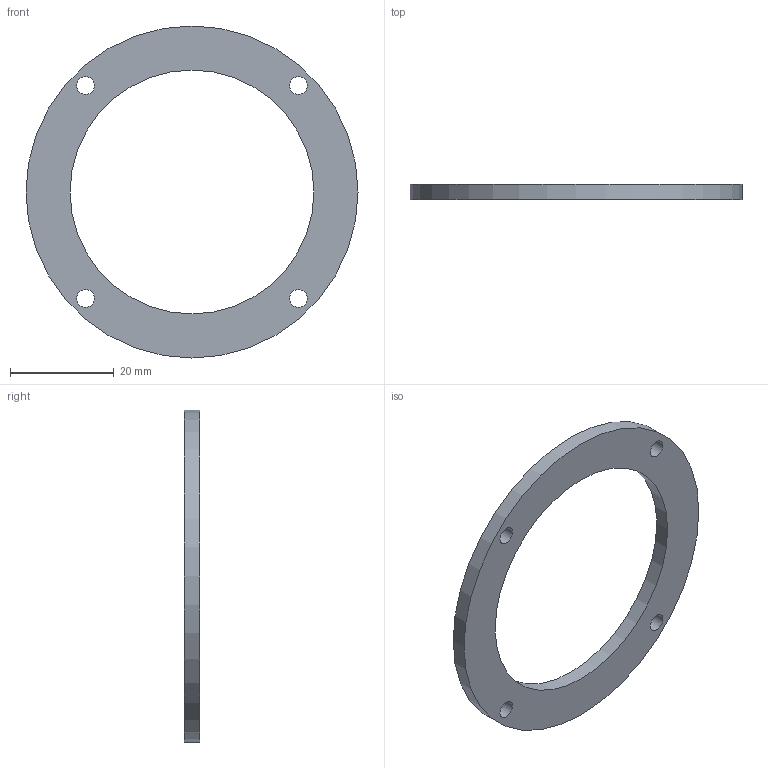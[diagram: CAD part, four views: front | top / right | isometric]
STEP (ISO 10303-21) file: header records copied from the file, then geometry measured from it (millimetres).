
FILE_DESCRIPTION(('Open CASCADE Model'),'2;1');
FILE_NAME('Open CASCADE Shape Model','2026-09-29T12:47:59',('Author'),( 'Open CASCADE'),'Open CASCADE STEP processor 7.9','Open CASCADE 7.9' ,'Unknown');
FILE_SCHEMA(('AUTOMOTIVE_DESIGN { 1 0 10303 214 1 1 1 1 }'));
Length unit declared in the file: millimetre
Products named in the file (1): Open CASCADE STEP translator 7.9 13
Bounding box: 64 x 2.95 x 64 mm (x, y, z)
Volume: 4264.9 mm3; surface area: 4046.2 mm2
Topology: 1 solids, 1 shells, 8 faces, 18 edges, 12 vertices
Faces by surface type: cylinder 6, plane 2
Full cylindrical faces by diameter (mm): 3.4 x4, 47 x1, 64 x1
Entity records: 498 total; most frequent: DIRECTION 84, CARTESIAN_POINT 75, ORIENTED_EDGE 36, PCURVE 36, DEFINITIONAL_REPRESENTATION 36, LINE 30, VECTOR 30, CIRCLE 24
